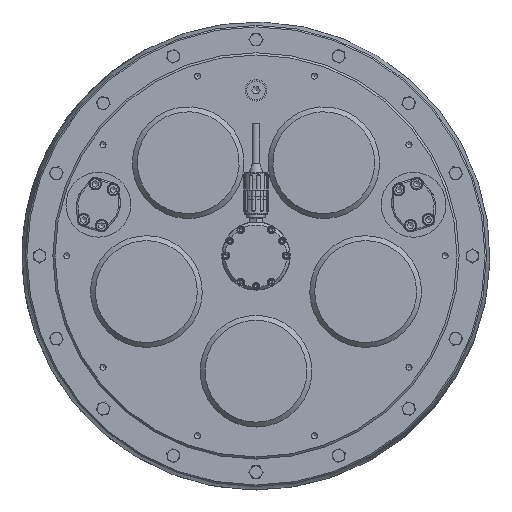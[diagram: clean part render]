
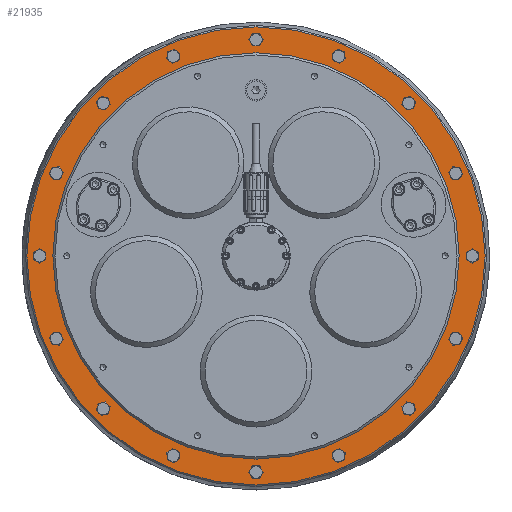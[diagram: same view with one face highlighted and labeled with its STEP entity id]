
A CAD part, front view. The second image highlights one B-rep face of the part: STEP entity #21935.
In plain terms, the highlighted planar face has unit normal (0, -1, 0).
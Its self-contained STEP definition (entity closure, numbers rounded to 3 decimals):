
#3808=FACE_BOUND('',#6061,.T.);
#3809=FACE_BOUND('',#6062,.T.);
#3810=FACE_BOUND('',#6063,.T.);
#3811=FACE_BOUND('',#6064,.T.);
#3812=FACE_BOUND('',#6065,.T.);
#3813=FACE_BOUND('',#6066,.T.);
#3814=FACE_BOUND('',#6067,.T.);
#3815=FACE_BOUND('',#6068,.T.);
#3816=FACE_BOUND('',#6069,.T.);
#3817=FACE_BOUND('',#6070,.T.);
#3818=FACE_BOUND('',#6071,.T.);
#3819=FACE_BOUND('',#6072,.T.);
#3820=FACE_BOUND('',#6073,.T.);
#3821=FACE_BOUND('',#6074,.T.);
#3822=FACE_BOUND('',#6075,.T.);
#3823=FACE_BOUND('',#6076,.T.);
#3824=FACE_BOUND('',#6077,.T.);
#4512=FACE_OUTER_BOUND('',#6060,.T.);
#6060=EDGE_LOOP('',(#14743));
#6061=EDGE_LOOP('',(#14744));
#6062=EDGE_LOOP('',(#14745));
#6063=EDGE_LOOP('',(#14746));
#6064=EDGE_LOOP('',(#14747));
#6065=EDGE_LOOP('',(#14748));
#6066=EDGE_LOOP('',(#14749));
#6067=EDGE_LOOP('',(#14750));
#6068=EDGE_LOOP('',(#14751));
#6069=EDGE_LOOP('',(#14752));
#6070=EDGE_LOOP('',(#14753));
#6071=EDGE_LOOP('',(#14754));
#6072=EDGE_LOOP('',(#14755));
#6073=EDGE_LOOP('',(#14756));
#6074=EDGE_LOOP('',(#14757));
#6075=EDGE_LOOP('',(#14758));
#6076=EDGE_LOOP('',(#14759));
#6077=EDGE_LOOP('',(#14760));
#7980=CIRCLE('',#23637,318.);
#7981=CIRCLE('',#23638,7.7);
#7982=CIRCLE('',#23639,7.7);
#7983=CIRCLE('',#23640,7.7);
#7984=CIRCLE('',#23641,7.7);
#7985=CIRCLE('',#23642,7.7);
#7986=CIRCLE('',#23643,7.7);
#7987=CIRCLE('',#23644,7.7);
#7988=CIRCLE('',#23645,7.7);
#7989=CIRCLE('',#23646,7.7);
#7990=CIRCLE('',#23647,7.7);
#7991=CIRCLE('',#23648,7.7);
#7992=CIRCLE('',#23649,7.7);
#7993=CIRCLE('',#23650,7.7);
#7994=CIRCLE('',#23651,7.7);
#7995=CIRCLE('',#23652,7.7);
#7996=CIRCLE('',#23653,7.7);
#7997=CIRCLE('',#23654,282.);
#9223=VERTEX_POINT('',#36233);
#9224=VERTEX_POINT('',#36235);
#9225=VERTEX_POINT('',#36237);
#9226=VERTEX_POINT('',#36239);
#9227=VERTEX_POINT('',#36241);
#9228=VERTEX_POINT('',#36243);
#9229=VERTEX_POINT('',#36245);
#9230=VERTEX_POINT('',#36247);
#9231=VERTEX_POINT('',#36249);
#9232=VERTEX_POINT('',#36251);
#9233=VERTEX_POINT('',#36253);
#9234=VERTEX_POINT('',#36255);
#9235=VERTEX_POINT('',#36257);
#9236=VERTEX_POINT('',#36259);
#9237=VERTEX_POINT('',#36261);
#9238=VERTEX_POINT('',#36263);
#9239=VERTEX_POINT('',#36265);
#9240=VERTEX_POINT('',#36267);
#11358=EDGE_CURVE('',#9223,#9223,#7980,.T.);
#11359=EDGE_CURVE('',#9224,#9224,#7981,.T.);
#11360=EDGE_CURVE('',#9225,#9225,#7982,.T.);
#11361=EDGE_CURVE('',#9226,#9226,#7983,.T.);
#11362=EDGE_CURVE('',#9227,#9227,#7984,.T.);
#11363=EDGE_CURVE('',#9228,#9228,#7985,.T.);
#11364=EDGE_CURVE('',#9229,#9229,#7986,.T.);
#11365=EDGE_CURVE('',#9230,#9230,#7987,.T.);
#11366=EDGE_CURVE('',#9231,#9231,#7988,.T.);
#11367=EDGE_CURVE('',#9232,#9232,#7989,.T.);
#11368=EDGE_CURVE('',#9233,#9233,#7990,.T.);
#11369=EDGE_CURVE('',#9234,#9234,#7991,.T.);
#11370=EDGE_CURVE('',#9235,#9235,#7992,.T.);
#11371=EDGE_CURVE('',#9236,#9236,#7993,.T.);
#11372=EDGE_CURVE('',#9237,#9237,#7994,.T.);
#11373=EDGE_CURVE('',#9238,#9238,#7995,.T.);
#11374=EDGE_CURVE('',#9239,#9239,#7996,.T.);
#11375=EDGE_CURVE('',#9240,#9240,#7997,.T.);
#14743=ORIENTED_EDGE('',*,*,#11358,.F.);
#14744=ORIENTED_EDGE('',*,*,#11359,.T.);
#14745=ORIENTED_EDGE('',*,*,#11360,.T.);
#14746=ORIENTED_EDGE('',*,*,#11361,.T.);
#14747=ORIENTED_EDGE('',*,*,#11362,.T.);
#14748=ORIENTED_EDGE('',*,*,#11363,.T.);
#14749=ORIENTED_EDGE('',*,*,#11364,.T.);
#14750=ORIENTED_EDGE('',*,*,#11365,.T.);
#14751=ORIENTED_EDGE('',*,*,#11366,.T.);
#14752=ORIENTED_EDGE('',*,*,#11367,.T.);
#14753=ORIENTED_EDGE('',*,*,#11368,.T.);
#14754=ORIENTED_EDGE('',*,*,#11369,.T.);
#14755=ORIENTED_EDGE('',*,*,#11370,.T.);
#14756=ORIENTED_EDGE('',*,*,#11371,.T.);
#14757=ORIENTED_EDGE('',*,*,#11372,.T.);
#14758=ORIENTED_EDGE('',*,*,#11373,.T.);
#14759=ORIENTED_EDGE('',*,*,#11374,.T.);
#14760=ORIENTED_EDGE('',*,*,#11375,.T.);
#19644=PLANE('',#23636);
#21935=ADVANCED_FACE('',(#4512,#3808,#3809,#3810,#3811,#3812,#3813,#3814,
#3815,#3816,#3817,#3818,#3819,#3820,#3821,#3822,#3823,#3824),#19644,.F.);
#23636=AXIS2_PLACEMENT_3D('',#36232,#26910,#26911);
#23637=AXIS2_PLACEMENT_3D('',#36234,#26912,#26913);
#23638=AXIS2_PLACEMENT_3D('',#36236,#26914,#26915);
#23639=AXIS2_PLACEMENT_3D('',#36238,#26916,#26917);
#23640=AXIS2_PLACEMENT_3D('',#36240,#26918,#26919);
#23641=AXIS2_PLACEMENT_3D('',#36242,#26920,#26921);
#23642=AXIS2_PLACEMENT_3D('',#36244,#26922,#26923);
#23643=AXIS2_PLACEMENT_3D('',#36246,#26924,#26925);
#23644=AXIS2_PLACEMENT_3D('',#36248,#26926,#26927);
#23645=AXIS2_PLACEMENT_3D('',#36250,#26928,#26929);
#23646=AXIS2_PLACEMENT_3D('',#36252,#26930,#26931);
#23647=AXIS2_PLACEMENT_3D('',#36254,#26932,#26933);
#23648=AXIS2_PLACEMENT_3D('',#36256,#26934,#26935);
#23649=AXIS2_PLACEMENT_3D('',#36258,#26936,#26937);
#23650=AXIS2_PLACEMENT_3D('',#36260,#26938,#26939);
#23651=AXIS2_PLACEMENT_3D('',#36262,#26940,#26941);
#23652=AXIS2_PLACEMENT_3D('',#36264,#26942,#26943);
#23653=AXIS2_PLACEMENT_3D('',#36266,#26944,#26945);
#23654=AXIS2_PLACEMENT_3D('',#36268,#26946,#26947);
#26910=DIRECTION('center_axis',(0.,1.,0.));
#26911=DIRECTION('ref_axis',(0.,0.,1.));
#26912=DIRECTION('center_axis',(0.,1.,0.));
#26913=DIRECTION('ref_axis',(0.,0.,
1.));
#26914=DIRECTION('center_axis',(0.,1.,0.));
#26915=DIRECTION('ref_axis',(-0.924,0.,0.383));
#26916=DIRECTION('center_axis',(0.,1.,0.));
#26917=DIRECTION('ref_axis',(-0.707,0.,0.707));
#26918=DIRECTION('center_axis',(0.,1.,0.));
#26919=DIRECTION('ref_axis',(-0.383,0.,0.924));
#26920=DIRECTION('center_axis',(0.,1.,0.));
#26921=DIRECTION('ref_axis',(0.,0.,
1.));
#26922=DIRECTION('center_axis',(0.,1.,0.));
#26923=DIRECTION('ref_axis',(0.383,0.,0.924));
#26924=DIRECTION('center_axis',(0.,1.,0.));
#26925=DIRECTION('ref_axis',(0.707,0.,0.707));
#26926=DIRECTION('center_axis',(0.,1.,0.));
#26927=DIRECTION('ref_axis',(0.924,0.,0.383));
#26928=DIRECTION('center_axis',(0.,1.,0.));
#26929=DIRECTION('ref_axis',(1.,0.,0.));
#26930=DIRECTION('center_axis',(0.,1.,0.));
#26931=DIRECTION('ref_axis',(0.924,0.,-0.383));
#26932=DIRECTION('center_axis',(0.,1.,0.));
#26933=DIRECTION('ref_axis',(0.707,0.,-0.707));
#26934=DIRECTION('center_axis',(0.,1.,0.));
#26935=DIRECTION('ref_axis',(0.383,0.,-0.924));
#26936=DIRECTION('center_axis',(0.,1.,0.));
#26937=DIRECTION('ref_axis',(0.,0.,
-1.));
#26938=DIRECTION('center_axis',(0.,1.,0.));
#26939=DIRECTION('ref_axis',(-0.383,0.,-0.924));
#26940=DIRECTION('center_axis',(0.,1.,0.));
#26941=DIRECTION('ref_axis',(-0.707,0.,-0.707));
#26942=DIRECTION('center_axis',(0.,1.,0.));
#26943=DIRECTION('ref_axis',(-0.924,0.,-0.383));
#26944=DIRECTION('center_axis',(0.,1.,0.));
#26945=DIRECTION('ref_axis',(-1.,0.,0.));
#26946=DIRECTION('center_axis',(0.,1.,0.));
#26947=DIRECTION('ref_axis',(-1.,0.,0.));
#36232=CARTESIAN_POINT('Origin',(-301.,464.5,0.));
#36233=CARTESIAN_POINT('',(0.,464.5,-318.));
#36234=CARTESIAN_POINT('Origin',(0.,464.5,
0.));
#36235=CARTESIAN_POINT('',(107.691,464.5,280.111));
#36236=CARTESIAN_POINT('Origin',(114.805,464.5,277.164));
#36237=CARTESIAN_POINT('',(206.687,464.5,217.577));
#36238=CARTESIAN_POINT('Origin',(212.132,464.5,212.132));
#36239=CARTESIAN_POINT('',(274.217,464.5,121.919));
#36240=CARTESIAN_POINT('Origin',(277.164,464.5,114.805));
#36241=CARTESIAN_POINT('',(300.,464.5,7.7));
#36242=CARTESIAN_POINT('Origin',(300.,464.5,0.));
#36243=CARTESIAN_POINT('',(280.111,464.5,-107.691));
#36244=CARTESIAN_POINT('Origin',(277.164,464.5,-114.805));
#36245=CARTESIAN_POINT('',(217.577,464.5,-206.687));
#36246=CARTESIAN_POINT('Origin',(212.132,464.5,-212.132));
#36247=CARTESIAN_POINT('',(121.919,464.5,-274.217));
#36248=CARTESIAN_POINT('Origin',(114.805,464.5,-277.164));
#36249=CARTESIAN_POINT('',(7.7,464.5,-300.));
#36250=CARTESIAN_POINT('Origin',(0.,464.5,-300.));
#36251=CARTESIAN_POINT('',(-107.691,464.5,-280.111));
#36252=CARTESIAN_POINT('Origin',(-114.805,464.5,-277.164));
#36253=CARTESIAN_POINT('',(-206.687,464.5,-217.577));
#36254=CARTESIAN_POINT('Origin',(-212.132,464.5,-212.132));
#36255=CARTESIAN_POINT('',(-274.217,464.5,-121.919));
#36256=CARTESIAN_POINT('Origin',(-277.164,464.5,-114.805));
#36257=CARTESIAN_POINT('',(-300.,464.5,-7.7));
#36258=CARTESIAN_POINT('Origin',(-300.,464.5,0.));
#36259=CARTESIAN_POINT('',(-280.111,464.5,107.691));
#36260=CARTESIAN_POINT('Origin',(-277.164,464.5,114.805));
#36261=CARTESIAN_POINT('',(-217.577,464.5,206.687));
#36262=CARTESIAN_POINT('Origin',(-212.132,464.5,212.132));
#36263=CARTESIAN_POINT('',(-121.919,464.5,274.217));
#36264=CARTESIAN_POINT('Origin',(-114.805,464.5,277.164));
#36265=CARTESIAN_POINT('',(-7.7,464.5,300.));
#36266=CARTESIAN_POINT('Origin',(0.,464.5,
300.));
#36267=CARTESIAN_POINT('',(-282.,464.5,0.));
#36268=CARTESIAN_POINT('Origin',(0.,464.5,
0.));
